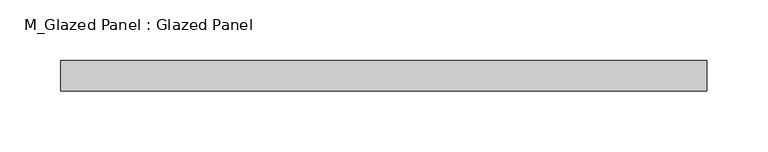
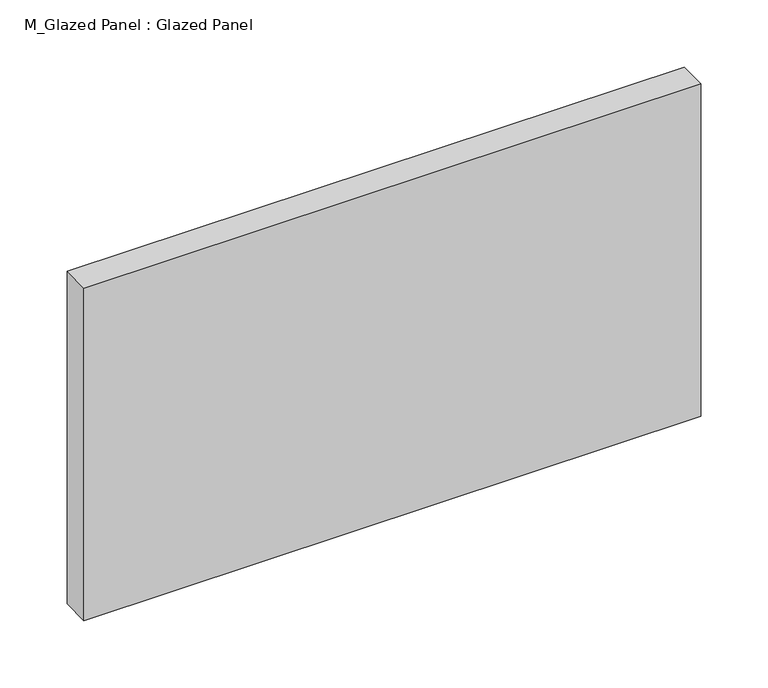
"""IFC4 building model written with IfcOpenShell, lengths in millimetres: plate geometry, M_Glazed Panel : Glazed Panel."""

import ifcopenshell
import ifcopenshell.guid

model = None  # the IFC model being written
_history = None  # IfcOwnerHistory: only IFC2X3 demands one
_inside = {}  # id of a spatial element -> (the spatial element, [elements in it])
_under = {}  # id of a project, library or spatial element -> (it, [spatial elements below it])
_declared = {}  # id of a project -> (the project, [libraries it declares])
_typed = {}  # id of a type object -> (the type object, [elements of that type])
_made_of = {}  # id of a material, layer set ... -> (it, [elements and type objects made of it])


def new_model(schema):
    """Start an empty IFC model of exactly this schema.

    Asked for "IFC4X3", IfcOpenShell would pick the latest addendum, in which some entities
    have other attributes; the version numbers below select the first issue.
    IFC2X3 requires an IfcOwnerHistory on every rooted entity: one is made here for all.
    """
    global model, _history
    if schema == "IFC4X3":
        model = ifcopenshell.file(schema_version=(4, 3, 0, 0))
    else:
        model = ifcopenshell.file(schema=schema)
    _inside.clear()
    _under.clear()
    _declared.clear()
    _typed.clear()
    _made_of.clear()
    _history = None
    if model.schema == "IFC2X3":
        org = make("IfcOrganization", Name="unknown")
        user = make(
            "IfcPersonAndOrganization",
            ThePerson=make("IfcPerson", FamilyName="unknown"),
            TheOrganization=org,
        )
        app = make(
            "IfcApplication",
            ApplicationDeveloper=org,
            Version="unknown",
            ApplicationFullName="unknown",
            ApplicationIdentifier="unknown",
        )
        _history = make(
            "IfcOwnerHistory",
            OwningUser=user,
            OwningApplication=app,
            ChangeAction="ADDED",
            CreationDate=0,
        )
    return model


def make(cls, **values):
    """One entity of the class cls with the attributes given. An attribute that is None is left unset."""
    return model.create_entity(
        cls, **{name: value for name, value in values.items() if value is not None}
    )


def rooted(cls, **values):
    """An entity with a GlobalId (a new one), such as an element, a storey or a relation."""
    return make(cls, GlobalId=ifcopenshell.guid.new(), OwnerHistory=_history, **values)


def si_unit(unit_type, name, prefix=None):
    """IfcSIUnit, for example si_unit("LENGTHUNIT", "METRE", prefix="MILLI")."""
    return make("IfcSIUnit", UnitType=unit_type, Prefix=prefix, Name=name)


def assignment(units):
    """IfcUnitAssignment: the units of a project."""
    return None if units is None else make("IfcUnitAssignment", Units=units)


def point(xyz):
    """IfcCartesianPoint."""
    return None if xyz is None else make("IfcCartesianPoint", Coordinates=xyz)


def direction(xyz):
    """IfcDirection."""
    return None if xyz is None else make("IfcDirection", DirectionRatios=xyz)


def frame(location, z_axis=None, x_axis=None):
    """IfcAxis2Placement3D, a coordinate frame: its origin and axes. An axis left out is left unset."""
    return make(
        "IfcAxis2Placement3D",
        Location=point(location),
        Axis=direction(z_axis),
        RefDirection=direction(x_axis),
    )


def origin():
    """The frame at (0, 0, 0) with its axes left unset."""
    return frame((0.0, 0.0, 0.0))


def origin_with_axes():
    """The frame at (0, 0, 0) with the z axis (0, 0, 1) and the x axis (1, 0, 0) written out."""
    return frame((0.0, 0.0, 0.0), z_axis=(0.0, 0.0, 1.0), x_axis=(1.0, 0.0, 0.0))


def place(relative_to, where):
    """IfcLocalPlacement: puts the frame where relative to a parent placement (None: the world)."""
    return make(
        "IfcLocalPlacement", PlacementRelTo=relative_to, RelativePlacement=where
    )


def context(
    kind, dimensions, precision=None, world=None, true_north=None, identifier=None
):
    """IfcGeometricRepresentationContext, for example the 3D "Model" context."""
    return make(
        "IfcGeometricRepresentationContext",
        ContextIdentifier=identifier,
        ContextType=kind,
        CoordinateSpaceDimension=dimensions,
        Precision=precision,
        WorldCoordinateSystem=world,
        TrueNorth=true_north,
    )


def project(units=None, contexts=None):
    """IfcProject with its units and contexts."""
    return rooted(
        "IfcProject",
        Name="project",
        RepresentationContexts=contexts,
        UnitsInContext=assignment(units),
    )


def spatial(cls, under=None, at=None, **own):
    """A site, building, storey or space (cls), placed at a placement, below another one or the project."""
    s = rooted(cls, ObjectPlacement=at, **own)
    if under is not None:
        _under.setdefault(under.id(), (under, []))[1].append(s)
    return s


def polyline(points):
    """IfcPolyline through the points."""
    return make("IfcPolyline", Points=[point(p) for p in points])


def outline(outer, holes=None, kind="AREA"):
    """IfcArbitraryClosedProfileDef: a profile drawn as a closed curve; with holes, ...WithVoids."""
    if holes is None:
        return make("IfcArbitraryClosedProfileDef", ProfileType=kind, OuterCurve=outer)
    return make(
        "IfcArbitraryProfileDefWithVoids",
        ProfileType=kind,
        OuterCurve=outer,
        InnerCurves=holes,
    )


def extrude(swept, where, along, depth):
    """IfcExtrudedAreaSolid: the profile swept, set in the frame where, extruded along a direction by depth."""
    return make(
        "IfcExtrudedAreaSolid",
        SweptArea=swept,
        Position=where,
        ExtrudedDirection=direction(along),
        Depth=depth,
    )


def shape(context_of_items, identifier, shape_type, items):
    """IfcShapeRepresentation: the items that make up one representation, for example the "Body"."""
    return make(
        "IfcShapeRepresentation",
        ContextOfItems=context_of_items,
        RepresentationIdentifier=identifier,
        RepresentationType=shape_type,
        Items=items,
    )


def source(mapping_origin, context_of_items, identifier, shape_type, items):
    """IfcRepresentationMap: a shape defined once, which mapped items show again and again."""
    return make(
        "IfcRepresentationMap",
        MappingOrigin=mapping_origin,
        MappedRepresentation=shape(context_of_items, identifier, shape_type, items),
    )


def transform(
    local_origin,
    x_axis=None,
    y_axis=None,
    z_axis=None,
    scale=None,
    scale2=None,
    scale3=None,
    uniform=True,
):
    """IfcCartesianTransformationOperator3D, or its non-uniform kind. x_axis, y_axis, z_axis: its Axis1, 2, 3."""
    if uniform:
        return make(
            "IfcCartesianTransformationOperator3D",
            Axis1=direction(x_axis),
            Axis2=direction(y_axis),
            LocalOrigin=point(local_origin),
            Scale=scale,
            Axis3=direction(z_axis),
        )
    return make(
        "IfcCartesianTransformationOperator3DnonUniform",
        Axis1=direction(x_axis),
        Axis2=direction(y_axis),
        LocalOrigin=point(local_origin),
        Scale=scale,
        Axis3=direction(z_axis),
        Scale2=scale2,
        Scale3=scale3,
    )


def mapped(mapping_source, mapping_target):
    """IfcMappedItem: shows the shape of a source again, moved by a transform."""
    return make(
        "IfcMappedItem", MappingSource=mapping_source, MappingTarget=mapping_target
    )


def made_of(thing, what):
    """Note that an element or type object is made of a material, layer set ...; save() writes the relation."""
    if what is not None:
        _made_of.setdefault(what.id(), (what, []))[1].append(thing)
    return thing


def element(
    cls,
    number,
    at=None,
    inside=None,
    cuts=None,
    type_object=None,
    material=None,
    context=None,
    identifier="Body",
    shape_type=None,
    held_by="IfcProductDefinitionShape",
    body=None,
    shapes=None,
    **own,
):
    """One element of the class cls, such as IfcWall. Its Tag is "e" and its number.

    at: its placement. inside: the storey or other place that contains it. cuts: it is an
    opening in that element (IfcRelVoidsElement). A single representation is given by context,
    identifier, shape_type and body (its items); several are given by shapes. held_by: the class
    of the entity that holds the representations. save() writes the other relations.
    """
    e = rooted(cls, Tag="e%d" % number, ObjectPlacement=at, **own)
    if body is not None:
        shapes = [shape(context, identifier, shape_type, body)]
    if shapes is not None:
        e.Representation = make(held_by, Representations=shapes)
    if inside is not None:
        _inside.setdefault(inside.id(), (inside, []))[1].append(e)
    if cuts is not None:
        rooted(
            "IfcRelVoidsElement", RelatingBuildingElement=cuts, RelatedOpeningElement=e
        )
    if type_object is not None:
        _typed.setdefault(type_object.id(), (type_object, []))[1].append(e)
    return made_of(e, material)


def aggregate(whole, parts):
    """IfcRelAggregates: a whole, such as a stair, and the parts it consists of."""
    return rooted("IfcRelAggregates", RelatingObject=whole, RelatedObjects=parts)


def save(model, path):
    """Write the relations noted so far, then the file.

    IfcRelAggregates (storeys below a building ...), IfcRelContainedInSpatialStructure (elements
    in a storey), IfcRelDefinesByType, IfcRelAssociatesMaterial and IfcRelDeclares: one each for
    every whole, place, type object, material and project.
    """
    for whole, parts in _under.values():
        aggregate(whole, parts)
    for where, things in _inside.values():
        rooted(
            "IfcRelContainedInSpatialStructure",
            RelatedElements=things,
            RelatingStructure=where,
        )
    for kind, things in _typed.values():
        rooted("IfcRelDefinesByType", RelatedObjects=things, RelatingType=kind)
    for what, things in _made_of.values():
        rooted("IfcRelAssociatesMaterial", RelatedObjects=things, RelatingMaterial=what)
    for by, libraries in _declared.values():
        rooted("IfcRelDeclares", RelatingContext=by, RelatedDefinitions=libraries)
    model.write(path)


def m_glazed_panel_glazed_panel_fdc266c1(model_context):
    return source(origin(), model_context, "Body", "SweptSolid", [
        extrude(outline(polyline([(265.0, 38.5), (-265.0, 38.5), (-265.0, 63.5), (265.0, 63.5), (265.0, 38.5)])), origin_with_axes(), (0.0, 0.0, 1.0), 301.9650626),
    ])


if __name__ == "__main__":
    model = new_model("IFC4")
    model_context = context("Model", 3, world=origin())
    ifc_project = project(units=[si_unit("LENGTHUNIT", "METRE", prefix="MILLI")], contexts=[model_context])
    site = spatial("IfcSite", under=ifc_project)
    building = spatial("IfcBuilding", under=site)
    placement = place(None, origin())
    m_glazed_panel_glazed_panel_shape = m_glazed_panel_glazed_panel_fdc266c1(model_context)
    element("IfcPlate", 1, ObjectType="M_Glazed Panel : Glazed Panel", at=placement, inside=building, context=model_context, shape_type="MappedRepresentation", body=[
        mapped(m_glazed_panel_glazed_panel_shape, transform((0.0, 0.0, 0.0), x_axis=(1.0, 0.0, 0.0), y_axis=(0.0, 1.0, 0.0), z_axis=(0.0, 0.0, 1.0))),
    ])
    save(model, "model.ifc")
